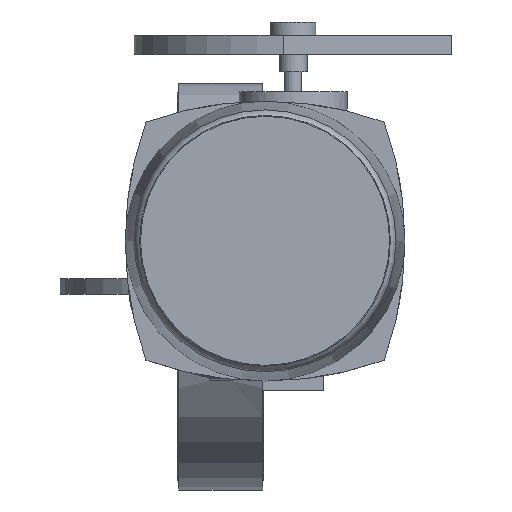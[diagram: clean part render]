
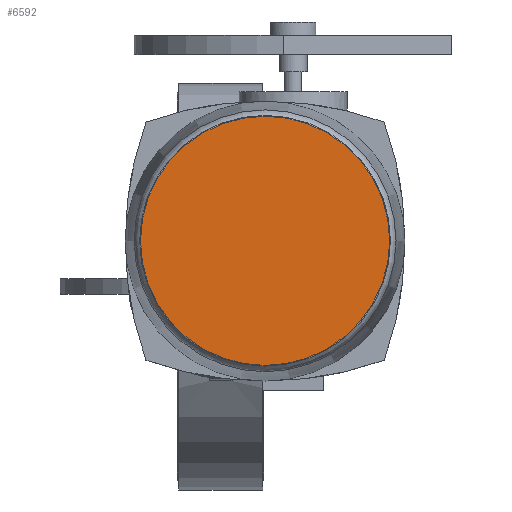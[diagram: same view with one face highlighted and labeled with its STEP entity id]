
A CAD part, top view. The second image highlights one B-rep face of the part: STEP entity #6592.
In plain terms, the highlighted planar face has unit normal (0, 0, 1).
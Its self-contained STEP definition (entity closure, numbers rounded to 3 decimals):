
#6592=ADVANCED_FACE('',(#11853),#11855,.T.);
#11853=FACE_BOUND('',#11854,.T.);
#11854=EDGE_LOOP('',(#15974));
#11855=PLANE('',#11856);
#11856=AXIS2_PLACEMENT_3D('',#11857,#11858,#11859);
#11857=CARTESIAN_POINT('',(35.,35.,590.));
#11858=DIRECTION('',(0.,0.,1.));
#11859=DIRECTION('',(0.,1.,0.));
#15974=ORIENTED_EDGE('',*,*,#18063,.F.);
#18063=EDGE_CURVE('',#21513,#21513,#21514,.F.);
#21513=VERTEX_POINT('',#31375);
#21514=CIRCLE('',#31376,98.019);
#31375=CARTESIAN_POINT('',(-63.019,35.,590.));
#31376=AXIS2_PLACEMENT_3D('',#31377,#31378,#31379);
#31377=CARTESIAN_POINT('',(35.,35.,590.));
#31378=DIRECTION('',(0.,0.,1.));
#31379=DIRECTION('',(-1.,0.,0.));
